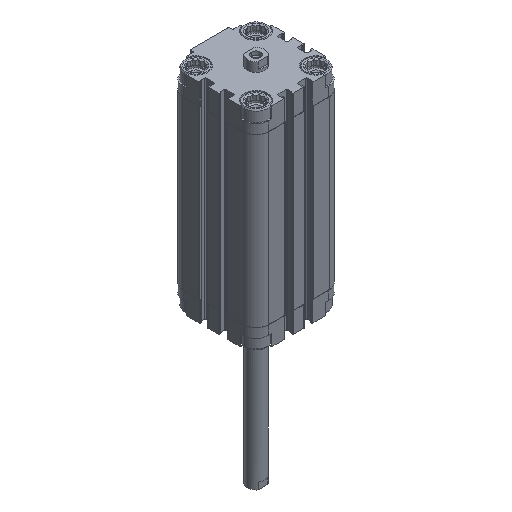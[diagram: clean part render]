
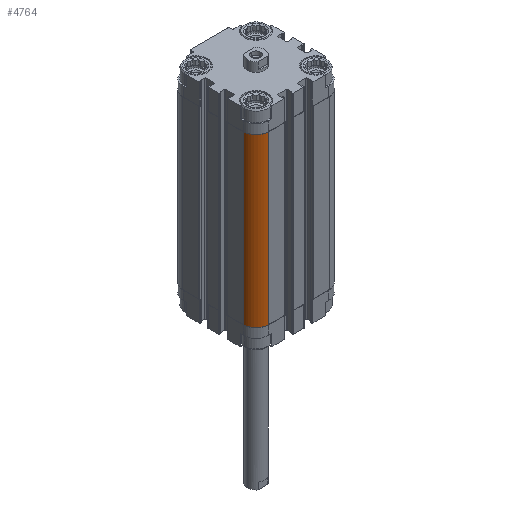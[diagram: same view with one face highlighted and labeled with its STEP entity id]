
A CAD part, isometric view. The second image highlights one B-rep face of the part: STEP entity #4764.
In plain terms, the highlighted cylindrical face has radius 9 mm (diameter 18 mm), a partial arc.
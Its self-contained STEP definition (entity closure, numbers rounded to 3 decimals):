
#209 = CYLINDRICAL_SURFACE ( 'NONE', #12838, 9. ) ;
#311 = CARTESIAN_POINT ( 'NONE',  ( -21., -30., -131. ) ) ;
#1341 = CARTESIAN_POINT ( 'NONE',  ( -21., -30., -14.5 ) ) ;
#1490 = CIRCLE ( 'NONE', #21560, 9. ) ;
#1503 = CARTESIAN_POINT ( 'NONE',  ( -30., -21., -131. ) ) ;
#1610 = DIRECTION ( 'NONE',  ( 0., 0., 1. ) ) ;
#1666 = DIRECTION ( 'NONE',  ( 0., 0., 1. ) ) ;
#3288 = DIRECTION ( 'NONE',  ( -1., 0., 0. ) ) ;
#3304 = CARTESIAN_POINT ( 'NONE',  ( -21., -21., -131. ) ) ;
#3613 = LINE ( 'NONE', #311, #5913 ) ;
#4764 = ADVANCED_FACE ( 'NONE', ( #8907 ), #209, .T. ) ;
#5913 = VECTOR ( 'NONE', #17560, 1000. ) ;
#5939 = CARTESIAN_POINT ( 'NONE',  ( -21., -30., -131. ) ) ;
#6408 = LINE ( 'NONE', #1503, #7677 ) ;
#7056 = DIRECTION ( 'NONE',  ( 0., 0., 1. ) ) ;
#7677 = VECTOR ( 'NONE', #1610, 1000. ) ;
#8100 = EDGE_CURVE ( 'NONE', #9667, #11779, #1490, .T. ) ;
#8113 = ORIENTED_EDGE ( 'NONE', *, *, #9273, .F. ) ;
#8633 = DIRECTION ( 'NONE',  ( -1., 0., 0. ) ) ;
#8907 = FACE_OUTER_BOUND ( 'NONE', #18988, .T. ) ;
#9273 = EDGE_CURVE ( 'NONE', #19737, #9667, #6408, .T. ) ;
#9667 = VERTEX_POINT ( 'NONE', #11739 ) ;
#10481 = AXIS2_PLACEMENT_3D ( 'NONE', #18596, #1666, #8633 ) ;
#11083 = ORIENTED_EDGE ( 'NONE', *, *, #18128, .T. ) ;
#11739 = CARTESIAN_POINT ( 'NONE',  ( -30., -21., -14.5 ) ) ;
#11779 = VERTEX_POINT ( 'NONE', #1341 ) ;
#12603 = VERTEX_POINT ( 'NONE', #5939 ) ;
#12838 = AXIS2_PLACEMENT_3D ( 'NONE', #3304, #15533, #14153 ) ;
#14153 = DIRECTION ( 'NONE',  ( -1., 0., 0. ) ) ;
#15533 = DIRECTION ( 'NONE',  ( 0., 0., -1. ) ) ;
#15951 = CIRCLE ( 'NONE', #10481, 9. ) ;
#16175 = CARTESIAN_POINT ( 'NONE',  ( -30., -21., -131. ) ) ;
#16411 = ORIENTED_EDGE ( 'NONE', *, *, #8100, .F. ) ;
#17559 = CARTESIAN_POINT ( 'NONE',  ( -21., -21., -14.5 ) ) ;
#17560 = DIRECTION ( 'NONE',  ( 0., 0., 1. ) ) ;
#18128 = EDGE_CURVE ( 'NONE', #12603, #11779, #3613, .T. ) ;
#18596 = CARTESIAN_POINT ( 'NONE',  ( -21., -21., -131. ) ) ;
#18988 = EDGE_LOOP ( 'NONE', ( #16411, #8113, #20605, #11083 ) ) ;
#19644 = EDGE_CURVE ( 'NONE', #19737, #12603, #15951, .T. ) ;
#19737 = VERTEX_POINT ( 'NONE', #16175 ) ;
#20605 = ORIENTED_EDGE ( 'NONE', *, *, #19644, .T. ) ;
#21560 = AXIS2_PLACEMENT_3D ( 'NONE', #17559, #7056, #3288 ) ;
